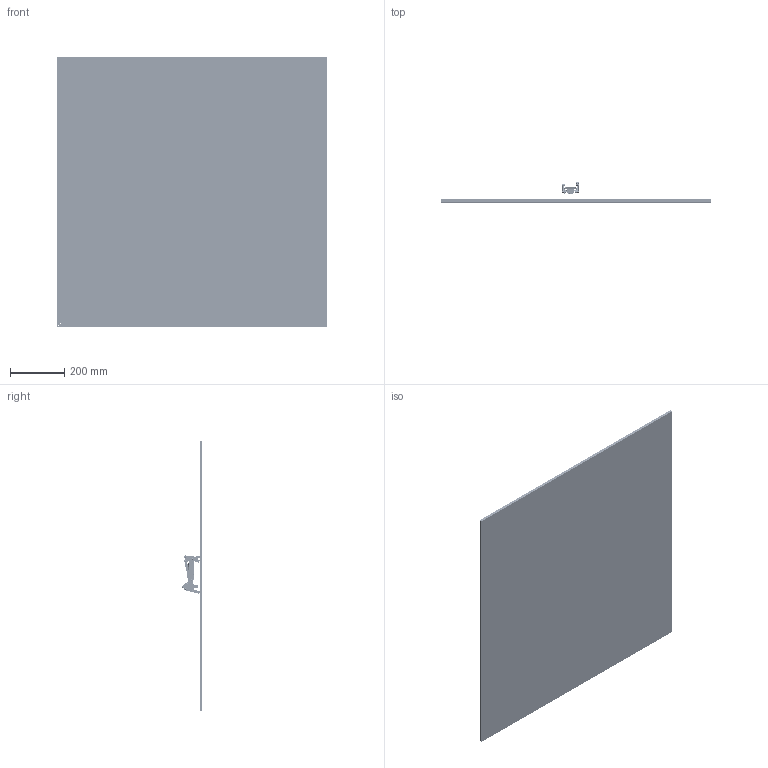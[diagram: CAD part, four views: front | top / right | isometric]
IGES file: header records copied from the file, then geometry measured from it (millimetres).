
Start section: SolidWorks IGES file using analytic representation for surfaces
Global section: file name: E:\user_sensis\solidworks\04_ready\walking_robot\IGES_Walking_Robot_(assembly).IGS; native system: SolidWorks 2014; preprocessor: SolidWorks 2014; author: Juarez; date: 150308.205022; units: millimetre
Bounding box: 1000 x 77.42 x 1000 mm (x, y, z)
Surface area: 2110556.9 mm2 (no closed solid volume)
Topology: 0 solids, 0 shells, 5126 faces, 48561 edges, 48419 vertices
Faces by surface type: bspline 2991, revolution 2135
